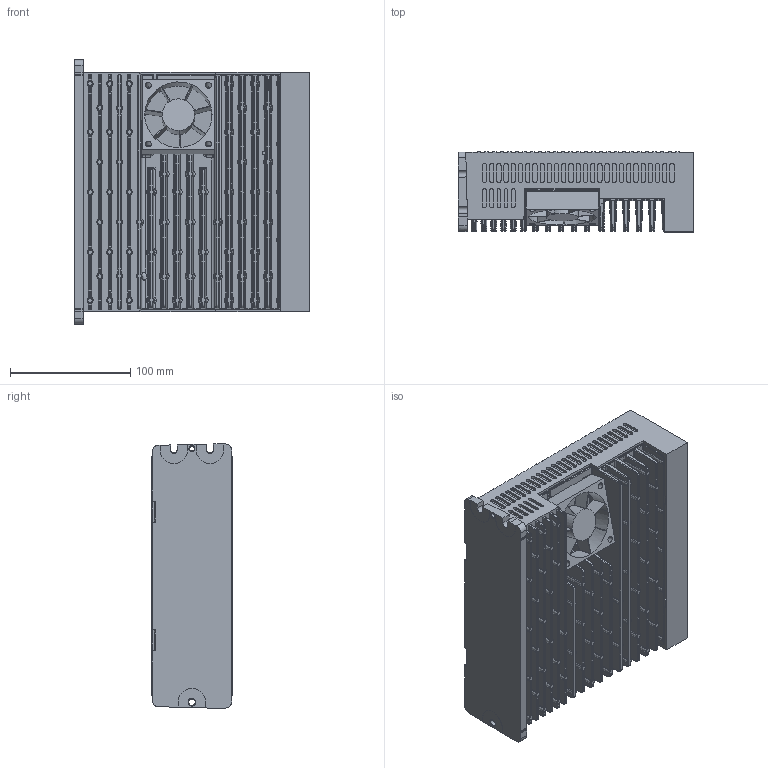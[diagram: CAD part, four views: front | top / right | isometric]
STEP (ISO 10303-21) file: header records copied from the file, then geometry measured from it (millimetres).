
FILE_DESCRIPTION((''),'2;1');
FILE_NAME('CD620-MOLD','2017-07-17T',('kinco218'),(''),'PRO/ENGINEER BY PARAMETRIC TECHNOLOGY CORPORATION, 2010100','PRO/ENGINEER BY PARAMETRIC TECHNOLOGY CORPORATION, 2010100','');
FILE_SCHEMA(('CONFIG_CONTROL_DESIGN'));
Products named in the file (1): CD620-MOLD
Bounding box: 195.77 x 66.7 x 220 mm (x, y, z)
Volume: 1997093.9 mm3; surface area: 271653.4 mm2
Topology: 1 solids, 5 shells, 2833 faces, 7289 edges, 4290 vertices
Faces by surface type: cylinder 886, plane 794, bspline 386, torus 332, sphere 242, cone 141, extrusion 52
Entity records: 98023 total; most frequent: CARTESIAN_POINT 33210, ORIENTED_EDGE 14086, DIRECTION 13093, EDGE_CURVE 7047, AXIS2_PLACEMENT_3D 5086, VERTEX_POINT 4290, EDGE_LOOP 2926, VECTOR 2921
